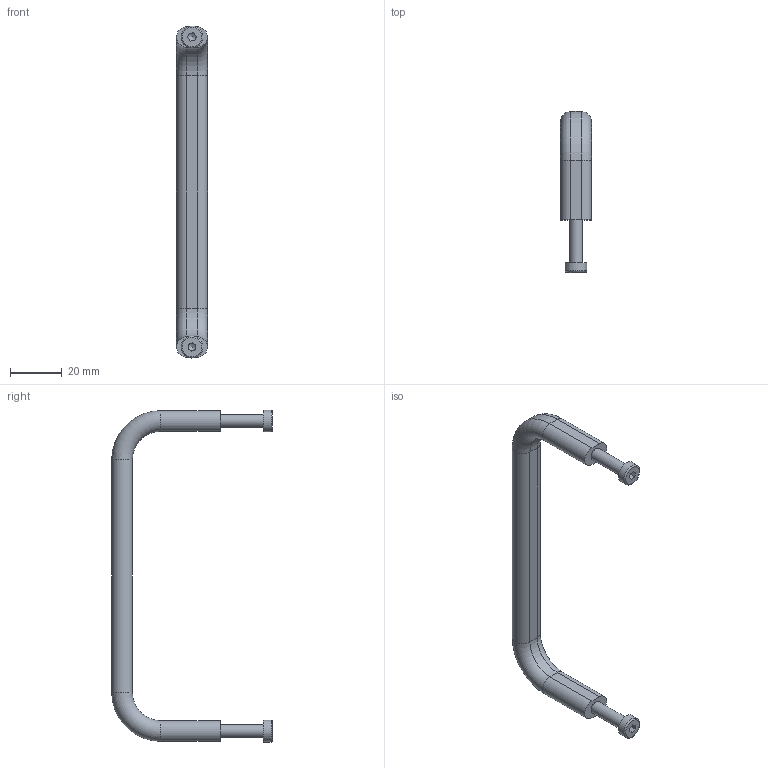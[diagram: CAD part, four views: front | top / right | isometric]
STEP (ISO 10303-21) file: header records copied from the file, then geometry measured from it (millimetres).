
FILE_DESCRIPTION((''),'2;1');
FILE_NAME('C:\Documents and Settings\Administrator\My Documents\Andys Backup Data\ANDY''S INVENTOR\INVENTOR LIBRARIES\MINITEC INVENTOR LIBRARIES\HANDLES LOCKS STOPS\A PACKED FILES\STEP FILES\21.1138 HANDLE AL.stp','2010-06-25T11:07:35',('Administrator'),(''),'Autodesk Inventor 2009','Autodesk Inventor 2009','');
FILE_SCHEMA(('AUTOMOTIVE_DESIGN { 1 0 10303 214 1 1 1 1 }'));
Length unit declared in the file: millimetre
Products named in the file (3): 21.1138 HANDLE AL; 21.1224  M5 x 25
Assembly tree (3 placements, depth 2):
  21.1138 HANDLE AL
    21.1138 HANDLE AL
    21.1224  M5 x 25  x2
Bounding box: 12 x 62.2 x 128.5 mm (x, y, z)
Volume: 15918 mm3; surface area: 7847.2 mm2
Topology: 3 solids, 3 shells, 54 faces, 110 edges, 66 vertices
Faces by surface type: plane 28, cylinder 16, torus 6, cone 4
Full cylindrical faces by diameter (mm): 5 x4, 8.5 x2
Entity records: 1069 total; most frequent: DIRECTION 188, CARTESIAN_POINT 176, ORIENTED_EDGE 144, AXIS2_PLACEMENT_3D 76, EDGE_CURVE 72, EDGE_LOOP 50, VERTEX_POINT 46, FACE_OUTER_BOUND 40
